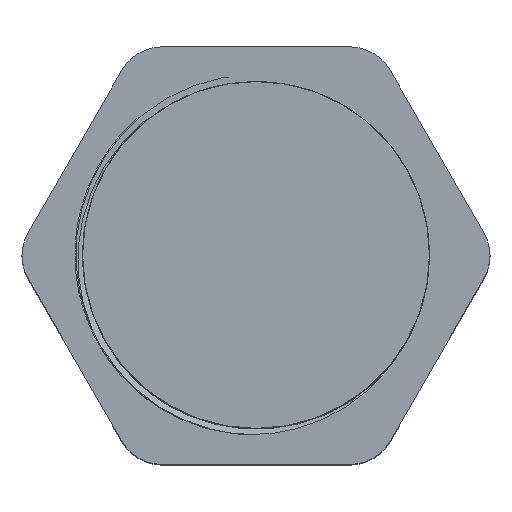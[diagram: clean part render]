
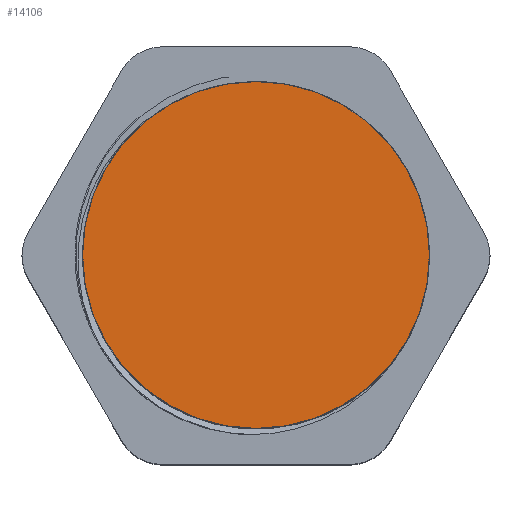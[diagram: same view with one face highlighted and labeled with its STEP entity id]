
A CAD part, top view. The second image highlights one B-rep face of the part: STEP entity #14106.
In plain terms, the highlighted planar face has unit normal (0, 0, 1).
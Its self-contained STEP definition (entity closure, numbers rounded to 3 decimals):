
#6191=CARTESIAN_POINT('',(0.,0.,48.5));
#6192=DIRECTION('',(0.,0.,1.));
#6193=DIRECTION('',(1.,0.,0.));
#6194=AXIS2_PLACEMENT_3D('',#6191,#6192,#6193);
#6196=CARTESIAN_POINT('',(0.,0.,48.5));
#6197=DIRECTION('',(0.,0.,1.));
#6198=DIRECTION('',(-1.,0.,0.));
#6199=AXIS2_PLACEMENT_3D('',#6196,#6197,#6198);
#11332=CARTESIAN_POINT('',(15.,0.,48.5));
#11333=CARTESIAN_POINT('',(-15.,0.,48.5));
#11334=VERTEX_POINT('',#11332);
#11335=VERTEX_POINT('',#11333);
#14097=CARTESIAN_POINT('',(0.,0.,48.5));
#14098=DIRECTION('',(0.,0.,1.));
#14099=DIRECTION('',(1.,0.,0.));
#14100=AXIS2_PLACEMENT_3D('',#14097,#14098,#14099);
#14101=PLANE('',#14100);
#14102=ORIENTED_EDGE('',*,*,#12302,.F.);
#14103=ORIENTED_EDGE('',*,*,#13333,.F.);
#14104=EDGE_LOOP('',(#14102,#14103));
#14105=FACE_OUTER_BOUND('',#14104,.F.);
#14106=ADVANCED_FACE('',(#14105),#14101,.T.);
#6195=CIRCLE('',#6194,15.);
#6200=CIRCLE('',#6199,15.);
#12302=EDGE_CURVE('',#11334,#11335,#6195,.T.);
#13333=EDGE_CURVE('',#11335,#11334,#6200,.T.);
